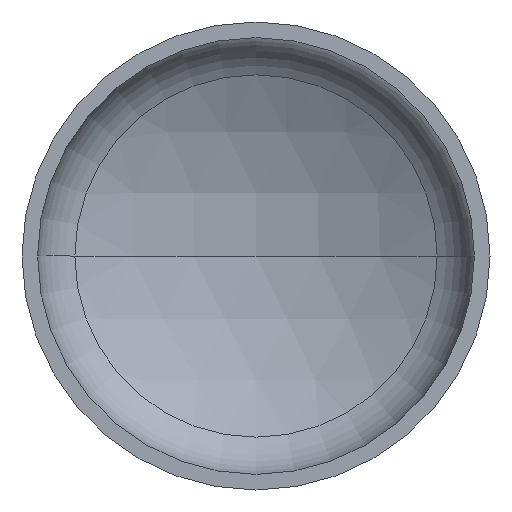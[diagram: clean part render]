
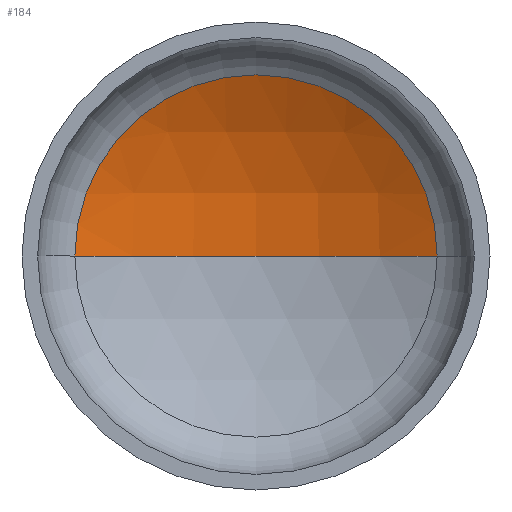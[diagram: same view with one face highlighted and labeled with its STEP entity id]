
A CAD part, front view. The second image highlights one B-rep face of the part: STEP entity #184.
In plain terms, the highlighted spherical face has radius 960 mm.
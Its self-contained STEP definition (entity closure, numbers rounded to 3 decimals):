
#12 = AXIS2_PLACEMENT_3D ( 'NONE', #99, #143, #148 ) ;
#15 = EDGE_LOOP ( 'NONE', ( #31, #82, #169 ) ) ;
#24 = AXIS2_PLACEMENT_3D ( 'NONE', #172, #177, #175 ) ;
#31 = ORIENTED_EDGE ( 'NONE', *, *, #360, .F. ) ;
#33 = VERTEX_POINT ( 'NONE', #289 ) ;
#43 = AXIS2_PLACEMENT_3D ( 'NONE', #195, #240, #227 ) ;
#70 = VERTEX_POINT ( 'NONE', #235 ) ;
#82 = ORIENTED_EDGE ( 'NONE', *, *, #383, .T. ) ;
#95 = VERTEX_POINT ( 'NONE', #320 ) ;
#99 = CARTESIAN_POINT ( 'NONE',  ( 0., -558.233, 0. ) ) ;
#109 = AXIS2_PLACEMENT_3D ( 'NONE', #281, #120, #242 ) ;
#120 = DIRECTION ( 'NONE',  ( 0., 0., -1. ) ) ;
#143 = DIRECTION ( 'NONE',  ( 0., 0., 1. ) ) ;
#148 = DIRECTION ( 'NONE',  ( 1., 0., 0. ) ) ;
#169 = ORIENTED_EDGE ( 'NONE', *, *, #324, .T. ) ;
#172 = CARTESIAN_POINT ( 'NONE',  ( 0., 281.901, 0. ) ) ;
#175 = DIRECTION ( 'NONE',  ( 1., 0., 0. ) ) ;
#177 = DIRECTION ( 'NONE',  ( 0., -1., 0. ) ) ;
#184 = ADVANCED_FACE ( 'NONE', ( #201 ), #321, .F. ) ;
#195 = CARTESIAN_POINT ( 'NONE',  ( 0., -558.233, 0. ) ) ;
#201 = FACE_OUTER_BOUND ( 'NONE', #15, .T. ) ;
#227 = DIRECTION ( 'NONE',  ( -1., 0., 0. ) ) ;
#235 = CARTESIAN_POINT ( 'NONE',  ( 464.516, 281.901, 0. ) ) ;
#240 = DIRECTION ( 'NONE',  ( 0., 0., -1. ) ) ;
#242 = DIRECTION ( 'NONE',  ( -1., 0., 0. ) ) ;
#281 = CARTESIAN_POINT ( 'NONE',  ( 0., -558.233, 0. ) ) ;
#286 = CIRCLE ( 'NONE', #24, 464.516 ) ;
#289 = CARTESIAN_POINT ( 'NONE',  ( 0., 401.767, 0. ) ) ;
#320 = CARTESIAN_POINT ( 'NONE',  ( -464.516, 281.901, 0. ) ) ;
#321 = SPHERICAL_SURFACE ( 'NONE', #43, 960. ) ;
#324 = EDGE_CURVE ( 'NONE', #70, #95, #286, .T. ) ;
#360 = EDGE_CURVE ( 'NONE', #33, #95, #397, .T. ) ;
#383 = EDGE_CURVE ( 'NONE', #33, #70, #387, .T. ) ;
#387 = CIRCLE ( 'NONE', #109, 960. ) ;
#397 = CIRCLE ( 'NONE', #12, 960. ) ;
